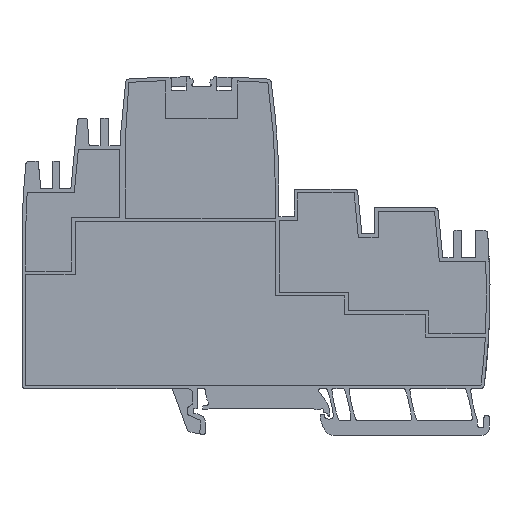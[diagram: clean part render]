
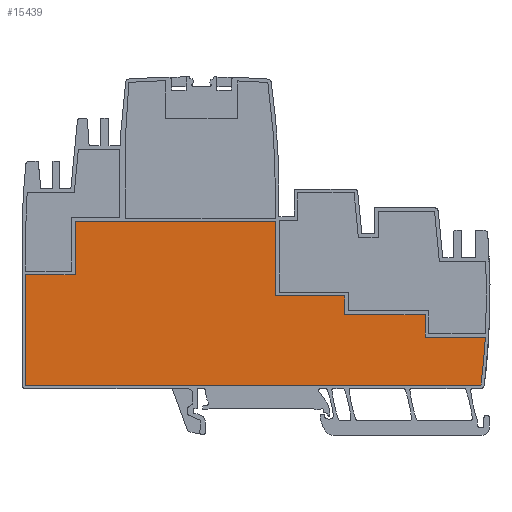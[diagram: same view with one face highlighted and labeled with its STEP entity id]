
A CAD part, left-side view. The second image highlights one B-rep face of the part: STEP entity #15439.
In plain terms, the highlighted planar face has unit normal (-1, 0, 0).
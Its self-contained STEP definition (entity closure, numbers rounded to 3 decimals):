
#11323=AXIS2_PLACEMENT_3D('Plane Axis2P3D',#11320,#11321,#11322) ;
#14400=AXIS2_PLACEMENT_3D('Circle Axis2P3D',#14398,#14399,$) ;
#11320=CARTESIAN_POINT('Axis2P3D Location',(5.1,62.086,6.75)) ;
#14320=CARTESIAN_POINT('Vertex',(5.1,38.863,32.203)) ;
#14323=CARTESIAN_POINT('Line Origine',(5.1,28.105,32.203)) ;
#14327=CARTESIAN_POINT('Vertex',(5.1,17.348,32.203)) ;
#14348=CARTESIAN_POINT('Line Origine',(5.1,17.348,29.203)) ;
#14352=CARTESIAN_POINT('Vertex',(5.1,17.348,26.203)) ;
#14373=CARTESIAN_POINT('Line Origine',(5.1,9.307,26.203)) ;
#14377=CARTESIAN_POINT('Vertex',(5.1,1.267,26.203)) ;
#14398=CARTESIAN_POINT('Axis2P3D Location',(5.1,202.015,38.151)) ;
#14402=CARTESIAN_POINT('Vertex',(5.1,2.446,13.362)) ;
#14423=CARTESIAN_POINT('Line Origine',(5.1,63.31,13.362)) ;
#14427=CARTESIAN_POINT('Vertex',(5.1,124.174,13.362)) ;
#14452=CARTESIAN_POINT('Vertex',(5.1,124.174,13.45)) ;
#14455=CARTESIAN_POINT('Line Origine',(5.1,124.174,13.406)) ;
#14472=CARTESIAN_POINT('Vertex',(5.1,124.086,13.45)) ;
#14475=CARTESIAN_POINT('Line Origine',(5.1,124.13,13.45)) ;
#14488=CARTESIAN_POINT('Line Origine',(5.1,124.086,28.055)) ;
#14492=CARTESIAN_POINT('Vertex',(5.1,124.086,42.661)) ;
#14513=CARTESIAN_POINT('Line Origine',(5.1,124.094,42.75)) ;
#14517=CARTESIAN_POINT('Vertex',(5.1,124.101,42.838)) ;
#14538=CARTESIAN_POINT('Line Origine',(5.1,117.5,42.838)) ;
#14542=CARTESIAN_POINT('Vertex',(5.1,110.898,42.838)) ;
#14563=CARTESIAN_POINT('Line Origine',(5.1,110.898,49.985)) ;
#14567=CARTESIAN_POINT('Vertex',(5.1,110.898,57.132)) ;
#14588=CARTESIAN_POINT('Line Origine',(5.1,84.131,57.132)) ;
#14592=CARTESIAN_POINT('Vertex',(5.1,57.363,57.132)) ;
#14619=CARTESIAN_POINT('Control Point',(5.1,57.363,37.503)) ;
#14620=CARTESIAN_POINT('Control Point',(5.1,57.363,57.132)) ;
#14621=CARTESIAN_POINT('Vertex',(5.1,57.363,37.503)) ;
#14625=CARTESIAN_POINT('Control Point',(5.1,57.363,37.203)) ;
#14626=CARTESIAN_POINT('Control Point',(5.1,57.363,37.503)) ;
#14627=CARTESIAN_POINT('Vertex',(5.1,57.363,37.203)) ;
#14652=CARTESIAN_POINT('Control Point',(5.1,57.063,37.203)) ;
#14653=CARTESIAN_POINT('Control Point',(5.1,57.363,37.203)) ;
#14654=CARTESIAN_POINT('Vertex',(5.1,57.063,37.203)) ;
#14658=CARTESIAN_POINT('Control Point',(5.1,38.863,37.203)) ;
#14659=CARTESIAN_POINT('Control Point',(5.1,57.063,37.203)) ;
#14660=CARTESIAN_POINT('Vertex',(5.1,38.863,37.203)) ;
#14682=CARTESIAN_POINT('Line Origine',(5.1,38.863,34.703)) ;
#11321=DIRECTION('Axis2P3D Direction',(1.,0.,0.)) ;
#11322=DIRECTION('Axis2P3D XDirection',(0.,1.,0.)) ;
#14324=DIRECTION('Vector Direction',(0.,-1.,0.)) ;
#14349=DIRECTION('Vector Direction',(0.,0.,1.)) ;
#14374=DIRECTION('Vector Direction',(0.,-1.,0.)) ;
#14399=DIRECTION('Axis2P3D Direction',(-1.,0.,0.)) ;
#14424=DIRECTION('Vector Direction',(0.,1.,0.)) ;
#14456=DIRECTION('Vector Direction',(0.,0.,1.)) ;
#14476=DIRECTION('Vector Direction',(0.,1.,0.)) ;
#14489=DIRECTION('Vector Direction',(0.,0.,-1.)) ;
#14514=DIRECTION('Vector Direction',(0.,-0.088,-0.996)) ;
#14539=DIRECTION('Vector Direction',(0.,1.,0.)) ;
#14564=DIRECTION('Vector Direction',(0.,0.,1.)) ;
#14589=DIRECTION('Vector Direction',(0.,-1.,0.)) ;
#14683=DIRECTION('Vector Direction',(0.,0.,1.)) ;
#14325=VECTOR('Line Direction',#14324,1.) ;
#14350=VECTOR('Line Direction',#14349,1.) ;
#14375=VECTOR('Line Direction',#14374,1.) ;
#14425=VECTOR('Line Direction',#14424,1.) ;
#14457=VECTOR('Line Direction',#14456,1.) ;
#14477=VECTOR('Line Direction',#14476,1.) ;
#14490=VECTOR('Line Direction',#14489,1.) ;
#14515=VECTOR('Line Direction',#14514,1.) ;
#14540=VECTOR('Line Direction',#14539,1.) ;
#14565=VECTOR('Line Direction',#14564,1.) ;
#14590=VECTOR('Line Direction',#14589,1.) ;
#14684=VECTOR('Line Direction',#14683,1.) ;
#15421=ORIENTED_EDGE('',*,*,#14519,.T.) ;
#15422=ORIENTED_EDGE('',*,*,#14494,.T.) ;
#15423=ORIENTED_EDGE('',*,*,#14479,.T.) ;
#15424=ORIENTED_EDGE('',*,*,#14459,.T.) ;
#15425=ORIENTED_EDGE('',*,*,#14429,.T.) ;
#15426=ORIENTED_EDGE('',*,*,#14404,.T.) ;
#15427=ORIENTED_EDGE('',*,*,#14379,.T.) ;
#15428=ORIENTED_EDGE('',*,*,#14354,.T.) ;
#15429=ORIENTED_EDGE('',*,*,#14329,.T.) ;
#15430=ORIENTED_EDGE('',*,*,#14686,.T.) ;
#15431=ORIENTED_EDGE('',*,*,#14662,.T.) ;
#15432=ORIENTED_EDGE('',*,*,#14656,.T.) ;
#15433=ORIENTED_EDGE('',*,*,#14629,.T.) ;
#15434=ORIENTED_EDGE('',*,*,#14623,.T.) ;
#15435=ORIENTED_EDGE('',*,*,#14594,.T.) ;
#15436=ORIENTED_EDGE('',*,*,#14569,.T.) ;
#15437=ORIENTED_EDGE('',*,*,#14544,.T.) ;
#15439=ADVANCED_FACE('TRENNWAND',(#15438),#11324,.F.) ;
#14618=B_SPLINE_CURVE_WITH_KNOTS('',1,(#14619,#14620),.UNSPECIFIED.,.F.,.U.,(2,2),(0.,19.629),.UNSPECIFIED.) ;
#14624=B_SPLINE_CURVE_WITH_KNOTS('',1,(#14625,#14626),.UNSPECIFIED.,.F.,.U.,(2,2),(0.,0.3),.UNSPECIFIED.) ;
#14651=B_SPLINE_CURVE_WITH_KNOTS('',1,(#14652,#14653),.UNSPECIFIED.,.F.,.U.,(2,2),(0.,0.3),.UNSPECIFIED.) ;
#14657=B_SPLINE_CURVE_WITH_KNOTS('',1,(#14658,#14659),.UNSPECIFIED.,.F.,.U.,(2,2),(0.,18.2),.UNSPECIFIED.) ;
#14401=CIRCLE('generated circle',#14400,201.103) ;
#14329=EDGE_CURVE('',#14328,#14321,#14326,.F.) ;
#14354=EDGE_CURVE('',#14353,#14328,#14351,.T.) ;
#14379=EDGE_CURVE('',#14378,#14353,#14376,.F.) ;
#14404=EDGE_CURVE('',#14403,#14378,#14401,.T.) ;
#14429=EDGE_CURVE('',#14428,#14403,#14426,.F.) ;
#14459=EDGE_CURVE('',#14453,#14428,#14458,.F.) ;
#14479=EDGE_CURVE('',#14473,#14453,#14478,.T.) ;
#14494=EDGE_CURVE('',#14493,#14473,#14491,.T.) ;
#14519=EDGE_CURVE('',#14518,#14493,#14516,.T.) ;
#14544=EDGE_CURVE('',#14543,#14518,#14541,.T.) ;
#14569=EDGE_CURVE('',#14568,#14543,#14566,.F.) ;
#14594=EDGE_CURVE('',#14593,#14568,#14591,.F.) ;
#14623=EDGE_CURVE('',#14622,#14593,#14618,.T.) ;
#14629=EDGE_CURVE('',#14628,#14622,#14624,.T.) ;
#14656=EDGE_CURVE('',#14655,#14628,#14651,.T.) ;
#14662=EDGE_CURVE('',#14661,#14655,#14657,.T.) ;
#14686=EDGE_CURVE('',#14321,#14661,#14685,.T.) ;
#15420=EDGE_LOOP('',(#15421,#15422,#15423,#15424,#15425,#15426,#15427,#15428,#15429,#15430,#15431,#15432,#15433,#15434,#15435,#15436,#15437)) ;
#15438=FACE_OUTER_BOUND('',#15420,.T.) ;
#14326=LINE('Line',#14323,#14325) ;
#14351=LINE('Line',#14348,#14350) ;
#14376=LINE('Line',#14373,#14375) ;
#14426=LINE('Line',#14423,#14425) ;
#14458=LINE('Line',#14455,#14457) ;
#14478=LINE('Line',#14475,#14477) ;
#14491=LINE('Line',#14488,#14490) ;
#14516=LINE('Line',#14513,#14515) ;
#14541=LINE('Line',#14538,#14540) ;
#14566=LINE('Line',#14563,#14565) ;
#14591=LINE('Line',#14588,#14590) ;
#14685=LINE('Line',#14682,#14684) ;
#11324=PLANE('',#11323) ;
#14321=VERTEX_POINT('',#14320) ;
#14328=VERTEX_POINT('',#14327) ;
#14353=VERTEX_POINT('',#14352) ;
#14378=VERTEX_POINT('',#14377) ;
#14403=VERTEX_POINT('',#14402) ;
#14428=VERTEX_POINT('',#14427) ;
#14453=VERTEX_POINT('',#14452) ;
#14473=VERTEX_POINT('',#14472) ;
#14493=VERTEX_POINT('',#14492) ;
#14518=VERTEX_POINT('',#14517) ;
#14543=VERTEX_POINT('',#14542) ;
#14568=VERTEX_POINT('',#14567) ;
#14593=VERTEX_POINT('',#14592) ;
#14622=VERTEX_POINT('',#14621) ;
#14628=VERTEX_POINT('',#14627) ;
#14655=VERTEX_POINT('',#14654) ;
#14661=VERTEX_POINT('',#14660) ;
